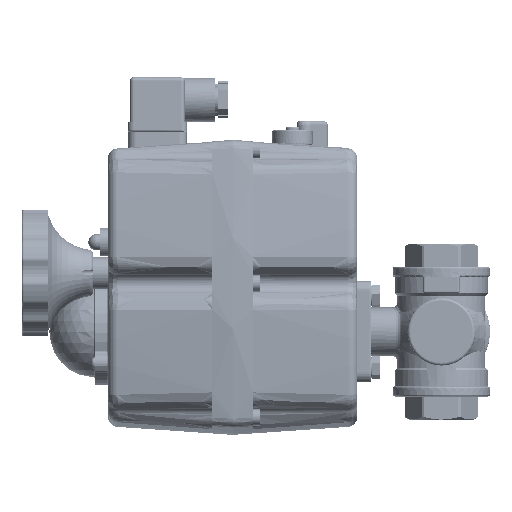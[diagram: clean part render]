
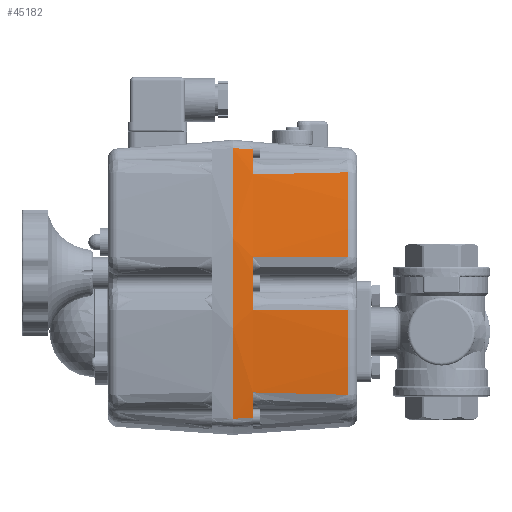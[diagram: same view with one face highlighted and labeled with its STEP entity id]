
A CAD part, left-side view. The second image highlights one B-rep face of the part: STEP entity #45182.
In plain terms, the highlighted conical face has half-angle 4 degrees and reference radius 403.75 mm.
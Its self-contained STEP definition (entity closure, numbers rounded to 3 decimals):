
#43348=CARTESIAN_POINT('',(-53.228,93.,36.932));
#43349=VERTEX_POINT('',#43348);
#43363=CARTESIAN_POINT('',(-53.847,93.,10.885));
#43364=VERTEX_POINT('',#43363);
#43365=CARTESIAN_POINT('',(349.189,93.,14.341));
#43366=DIRECTION('',(0.,-1.0,0.));
#43367=DIRECTION('',(-0.024,0.,-1.));
#43368=AXIS2_PLACEMENT_3D('',#43365,#43366,#43367);
#43369=CIRCLE('',#43368,403.051);
#43370=EDGE_CURVE('',#43349,#43364,#43369,.T.);
#43768=CARTESIAN_POINT('',(-49.849,93.,-42.392));
#43769=VERTEX_POINT('',#43768);
#43783=CARTESIAN_POINT('',(-50.465,103.,-43.02));
#43784=VERTEX_POINT('',#43783);
#43785=CARTESIAN_POINT('',(-49.849,93.,-42.392));
#43786=CARTESIAN_POINT('',(-49.9,93.83,-42.444));
#43787=CARTESIAN_POINT('',(-49.951,94.659,-42.496));
#43788=CARTESIAN_POINT('',(-50.157,97.993,-42.706));
#43789=CARTESIAN_POINT('',(-50.311,100.496,-42.863));
#43790=CARTESIAN_POINT('',(-50.465,103.,-43.02));
#43791=B_SPLINE_CURVE_WITH_KNOTS('',3,(#43785,#43786,#43787,#43788,#43789,#43790),.UNSPECIFIED.,.F.,.U.,(4,2,4),(5.021,7.52,15.06),.UNSPECIFIED.);
#43792=EDGE_CURVE('',#43769,#43784,#43791,.T.);
#43837=CARTESIAN_POINT('',(-51.418,93.,-29.972));
#43838=VERTEX_POINT('',#43837);
#43852=CARTESIAN_POINT('',(349.189,93.,14.341));
#43853=DIRECTION('',(0.,-1.0,0.));
#43854=DIRECTION('',(-0.024,0.,-1.));
#43855=AXIS2_PLACEMENT_3D('',#43852,#43853,#43854);
#43856=CIRCLE('',#43855,403.051);
#43857=EDGE_CURVE('',#43838,#43769,#43856,.T.);
#43935=CARTESIAN_POINT('',(-46.717,93.,89.896));
#43936=VERTEX_POINT('',#43935);
#43950=CARTESIAN_POINT('',(-48.862,93.,77.627));
#43951=VERTEX_POINT('',#43950);
#43952=CARTESIAN_POINT('',(349.189,93.,14.341));
#43953=DIRECTION('',(0.,-1.0,0.));
#43954=DIRECTION('',(-0.024,0.,-1.));
#43955=AXIS2_PLACEMENT_3D('',#43952,#43953,#43954);
#43956=CIRCLE('',#43955,403.051);
#43957=EDGE_CURVE('',#43936,#43951,#43956,.T.);
#44035=CARTESIAN_POINT('',(-47.29,103.,90.617));
#44036=VERTEX_POINT('',#44035);
#44050=CARTESIAN_POINT('',(-47.29,103.,90.617));
#44051=CARTESIAN_POINT('',(-47.147,100.497,90.436));
#44052=CARTESIAN_POINT('',(-47.003,97.993,90.256));
#44053=CARTESIAN_POINT('',(-46.812,94.66,90.016));
#44054=CARTESIAN_POINT('',(-46.764,93.83,89.956));
#44055=CARTESIAN_POINT('',(-46.717,93.,89.896));
#44056=B_SPLINE_CURVE_WITH_KNOTS('',3,(#44050,#44051,#44052,#44053,#44054,#44055),.UNSPECIFIED.,.F.,.U.,(4,2,4),(5.024,12.566,15.066),.UNSPECIFIED.);
#44057=EDGE_CURVE('',#44036,#43936,#44056,.T.);
#45064=CARTESIAN_POINT('',(-45.381,46.151,78.64));
#45065=VERTEX_POINT('',#45064);
#45093=CARTESIAN_POINT('',(-48.862,93.,77.627));
#45094=CARTESIAN_POINT('',(-48.725,91.116,77.647));
#45095=CARTESIAN_POINT('',(-48.588,89.231,77.67));
#45096=CARTESIAN_POINT('',(-48.281,85.02,77.725));
#45097=CARTESIAN_POINT('',(-48.111,82.693,77.759));
#45098=CARTESIAN_POINT('',(-47.834,78.912,77.82));
#45099=CARTESIAN_POINT('',(-47.727,77.458,77.845));
#45100=CARTESIAN_POINT('',(-47.38,72.757,77.931));
#45101=CARTESIAN_POINT('',(-47.14,69.511,77.997));
#45102=CARTESIAN_POINT('',(-46.511,61.07,78.19));
#45103=CARTESIAN_POINT('',(-46.12,55.877,78.329));
#45104=CARTESIAN_POINT('',(-45.611,49.173,78.539));
#45105=CARTESIAN_POINT('',(-45.496,47.662,78.588));
#45106=CARTESIAN_POINT('',(-45.381,46.151,78.64));
#45107=B_SPLINE_CURVE_WITH_KNOTS('',3,(#45093,#45094,#45095,#45096,#45097,#45098,#45099,#45100,#45101,#45102,#45103,#45104,#45105,#45106),.UNSPECIFIED.,.F.,.U.,(4,2,2,2,2,2,4),(13.201,18.869,25.868,30.243,40.011,55.64,60.189),.UNSPECIFIED.);
#45108=EDGE_CURVE('',#43951,#45065,#45107,.T.);
#45113=CARTESIAN_POINT('',(349.189,103.,14.341));
#45114=DIRECTION('',(0.,1.0,0.));
#45115=DIRECTION('',(-0.024,0.,-1.));
#45116=AXIS2_PLACEMENT_3D('',#45113,#45114,#45115);
#45117=CONICAL_SURFACE('',#45116,403.75,4.);
#45118=CARTESIAN_POINT('',(-50.57,46.151,10.805));
#45119=VERTEX_POINT('',#45118);
#45120=CARTESIAN_POINT('',(-47.989,46.151,-31.149));
#45121=VERTEX_POINT('',#45120);
#45122=CARTESIAN_POINT('',(349.189,46.151,14.341));
#45123=DIRECTION('',(0.,-1.0,0.));
#45124=DIRECTION('',(-0.998,0.,-0.062));
#45125=AXIS2_PLACEMENT_3D('',#45122,#45123,#45124);
#45126=CIRCLE('',#45125,399.775);
#45127=EDGE_CURVE('',#45119,#45121,#45126,.T.);
#45128=ORIENTED_EDGE('',*,*,#45127,.F.);
#45129=CARTESIAN_POINT('',(-53.847,93.,10.885));
#45130=DIRECTION('',(0.07,-0.998,-0.002));
#45131=VECTOR('',#45130,46.963);
#45132=LINE('',#45129,#45131);
#45133=EDGE_CURVE('',#43364,#45119,#45132,.T.);
#45134=ORIENTED_EDGE('',*,*,#45133,.F.);
#45135=ORIENTED_EDGE('',*,*,#43370,.F.);
#45136=CARTESIAN_POINT('',(-49.951,46.151,36.856));
#45137=VERTEX_POINT('',#45136);
#45138=CARTESIAN_POINT('',(-49.951,46.151,36.856));
#45139=DIRECTION('',(-0.07,0.998,0.002));
#45140=VECTOR('',#45139,46.963);
#45141=LINE('',#45138,#45140);
#45142=EDGE_CURVE('',#45137,#43349,#45141,.T.);
#45143=ORIENTED_EDGE('',*,*,#45142,.F.);
#45144=CARTESIAN_POINT('',(349.189,46.151,14.341));
#45145=DIRECTION('',(0.,-1.0,0.));
#45146=DIRECTION('',(-0.994,0.,0.109));
#45147=AXIS2_PLACEMENT_3D('',#45144,#45145,#45146);
#45148=CIRCLE('',#45147,399.775);
#45149=EDGE_CURVE('',#45065,#45137,#45148,.T.);
#45150=ORIENTED_EDGE('',*,*,#45149,.F.);
#45151=ORIENTED_EDGE('',*,*,#45108,.F.);
#45152=ORIENTED_EDGE('',*,*,#43957,.F.);
#45153=ORIENTED_EDGE('',*,*,#44057,.F.);
#45154=CARTESIAN_POINT('',(349.189,103.,14.341));
#45155=DIRECTION('',(0.,1.0,0.));
#45156=DIRECTION('',(-0.024,0.,-1.));
#45157=AXIS2_PLACEMENT_3D('',#45154,#45155,#45156);
#45158=CIRCLE('',#45157,403.75);
#45159=EDGE_CURVE('',#43784,#44036,#45158,.T.);
#45160=ORIENTED_EDGE('',*,*,#45159,.F.);
#45161=ORIENTED_EDGE('',*,*,#43792,.F.);
#45162=ORIENTED_EDGE('',*,*,#43857,.F.);
#45163=CARTESIAN_POINT('',(-47.989,46.151,-31.149));
#45164=CARTESIAN_POINT('',(-48.241,49.527,-31.022));
#45165=CARTESIAN_POINT('',(-48.492,52.902,-30.906));
#45166=CARTESIAN_POINT('',(-48.912,58.578,-30.726));
#45167=CARTESIAN_POINT('',(-49.082,60.879,-30.657));
#45168=CARTESIAN_POINT('',(-49.356,64.617,-30.553));
#45169=CARTESIAN_POINT('',(-49.462,66.054,-30.514));
#45170=CARTESIAN_POINT('',(-49.805,70.738,-30.393));
#45171=CARTESIAN_POINT('',(-50.042,73.985,-30.317));
#45172=CARTESIAN_POINT('',(-50.656,82.427,-30.139));
#45173=CARTESIAN_POINT('',(-51.032,87.622,-30.048));
#45174=CARTESIAN_POINT('',(-51.41,92.879,-29.973));
#45175=CARTESIAN_POINT('',(-51.414,92.939,-29.973));
#45176=CARTESIAN_POINT('',(-51.418,93.,-29.972));
#45177=B_SPLINE_CURVE_WITH_KNOTS('',3,(#45163,#45164,#45165,#45166,#45167,#45168,#45169,#45170,#45171,#45172,#45173,#45174,#45175,#45176),.UNSPECIFIED.,.F.,.U.,(4,2,2,2,2,2,4),(17.956,28.117,35.039,39.365,49.133,64.762,64.945),.UNSPECIFIED.);
#45178=EDGE_CURVE('',#45121,#43838,#45177,.T.);
#45179=ORIENTED_EDGE('',*,*,#45178,.F.);
#45180=EDGE_LOOP('',(#45128,#45134,#45135,#45143,#45150,#45151,#45152,#45153,#45160,#45161,#45162,#45179));
#45181=FACE_OUTER_BOUND('',#45180,.T.);
#45182=ADVANCED_FACE('',(#45181),#45117,.T.);
